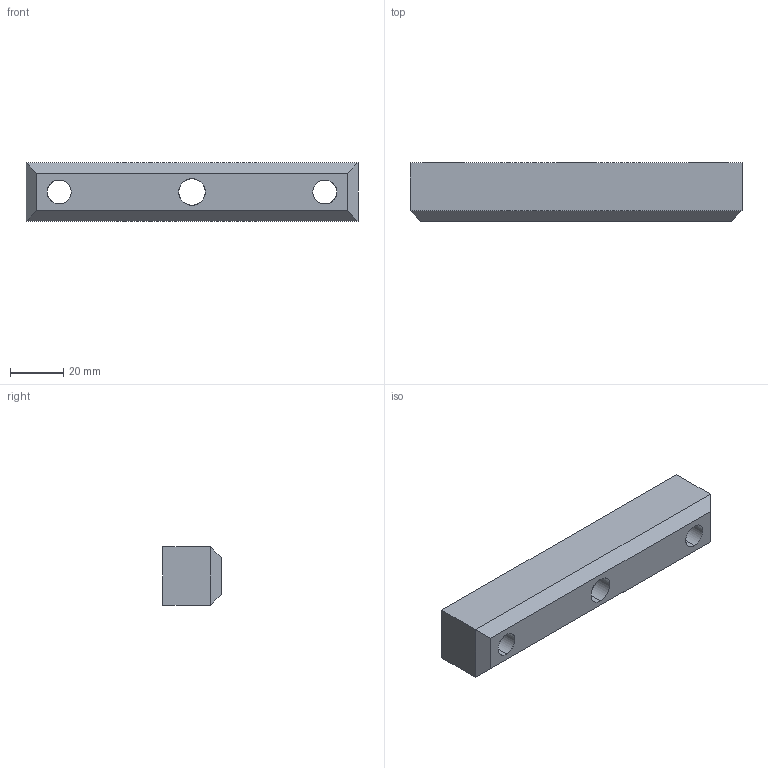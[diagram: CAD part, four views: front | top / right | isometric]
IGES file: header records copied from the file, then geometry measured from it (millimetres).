
Start section: START RECORD GO HERE.
Global section: file name: 761-022125.igs; native system: DASSAULT SYSTEMES CATIA V5 R20 - www.3ds.com; preprocessor: CATIA Version 5 Release 20 ; author: Utente; organization: NB04-ASUS; date: 20200411.200747; units: millimetre
Bounding box: 125 x 22 x 22 mm (x, y, z)
Surface area: 13373.2 mm2 (no closed solid volume)
Topology: 0 solids, 0 shells, 25 faces, 112 edges, 112 vertices
Faces by surface type: extrusion 13, revolution 12
